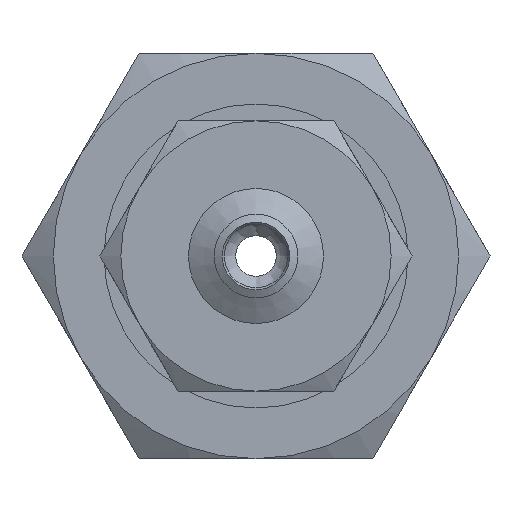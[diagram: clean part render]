
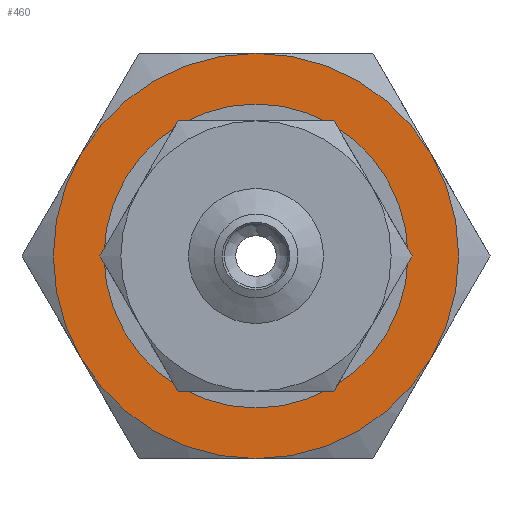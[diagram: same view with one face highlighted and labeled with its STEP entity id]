
A CAD part, front view. The second image highlights one B-rep face of the part: STEP entity #460.
In plain terms, the highlighted planar face has unit normal (0, -1, 0) as drawn and (-1, 0, 0) by its records, which use the part's own axes.
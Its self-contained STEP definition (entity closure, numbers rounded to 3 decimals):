
#460=ADVANCED_FACE('',(#640,#641),#642,.F.);
#640=FACE_BOUND('',#881,.T.);
#641=FACE_OUTER_BOUND('',#882,.T.);
#642=PLANE('',#883);
#881=EDGE_LOOP('',(#1448));
#882=EDGE_LOOP('',(#1449,#1450,#1451,#1452,#1453,#1454));
#883=AXIS2_PLACEMENT_3D('',#1455,#1456,#1457);
#1448=ORIENTED_EDGE('',*,*,#1790,.T.);
#1449=ORIENTED_EDGE('',*,*,#1791,.F.);
#1450=ORIENTED_EDGE('',*,*,#1772,.F.);
#1451=ORIENTED_EDGE('',*,*,#1770,.F.);
#1452=ORIENTED_EDGE('',*,*,#1758,.F.);
#1453=ORIENTED_EDGE('',*,*,#1757,.F.);
#1454=ORIENTED_EDGE('',*,*,#1789,.F.);
#1455=CARTESIAN_POINT('',(0.,0.0,0.0));
#1456=DIRECTION('',(1.0,0.0,0.0));
#1457=DIRECTION('',(0.0,1.0,0.0));
#1757=EDGE_CURVE('',#1999,#2002,#2004,.T.);
#1758=EDGE_CURVE('',#2002,#2005,#2006,.T.);
#1770=EDGE_CURVE('',#2005,#2022,#2025,.T.);
#1772=EDGE_CURVE('',#2022,#2027,#2028,.T.);
#1789=EDGE_CURVE('',#2048,#1999,#2053,.T.);
#1790=EDGE_CURVE('',#2054,#2054,#2055,.T.);
#1791=EDGE_CURVE('',#2027,#2048,#2056,.T.);
#1999=VERTEX_POINT('',#2431);
#2002=VERTEX_POINT('',#2454);
#2004=CIRCLE('',#2466,6.0);
#2005=VERTEX_POINT('',#2467);
#2006=CIRCLE('',#2468,6.0);
#2022=VERTEX_POINT('',#2537);
#2025=CIRCLE('',#2560,6.0);
#2027=VERTEX_POINT('',#2572);
#2028=CIRCLE('',#2573,6.0);
#2048=VERTEX_POINT('',#2654);
#2053=CIRCLE('',#2679,6.0);
#2054=VERTEX_POINT('',#2680);
#2055=CIRCLE('',#2681,4.0);
#2056=CIRCLE('',#2682,6.0);
#2431=CARTESIAN_POINT('',(0.,0.0,6.0));
#2454=CARTESIAN_POINT('',(0.,-5.196,3.0));
#2466=AXIS2_PLACEMENT_3D('',#2907,#2908,#2909);
#2467=CARTESIAN_POINT('',(0.,-5.196,-3.0));
#2468=AXIS2_PLACEMENT_3D('',#2910,#2911,#2912);
#2537=CARTESIAN_POINT('',(0.,0.0,-6.0));
#2560=AXIS2_PLACEMENT_3D('',#2919,#2920,#2921);
#2572=CARTESIAN_POINT('',(0.,5.196,-3.0));
#2573=AXIS2_PLACEMENT_3D('',#2922,#2923,#2924);
#2654=CARTESIAN_POINT('',(0.,5.196,3.0));
#2679=AXIS2_PLACEMENT_3D('',#2947,#2948,#2949);
#2680=CARTESIAN_POINT('',(0.,0.0,-4.0));
#2681=AXIS2_PLACEMENT_3D('',#2950,#2951,#2952);
#2682=AXIS2_PLACEMENT_3D('',#2953,#2954,#2955);
#2907=CARTESIAN_POINT('',(0.,0.0,0.0));
#2908=DIRECTION('',(1.0,0.0,0.0));
#2909=DIRECTION('',(0.0,0.0,-1.0));
#2910=CARTESIAN_POINT('',(0.,0.0,0.0));
#2911=DIRECTION('',(1.0,0.0,0.0));
#2912=DIRECTION('',(0.0,0.0,-1.0));
#2919=CARTESIAN_POINT('',(0.,0.0,0.0));
#2920=DIRECTION('',(1.0,0.0,0.0));
#2921=DIRECTION('',(0.0,0.0,-1.0));
#2922=CARTESIAN_POINT('',(0.,0.0,0.0));
#2923=DIRECTION('',(1.0,0.0,0.0));
#2924=DIRECTION('',(0.0,0.0,-1.0));
#2947=CARTESIAN_POINT('',(0.,0.0,0.0));
#2948=DIRECTION('',(1.0,0.0,0.0));
#2949=DIRECTION('',(0.0,0.0,-1.0));
#2950=CARTESIAN_POINT('',(0.,0.0,0.0));
#2951=DIRECTION('',(1.0,0.0,0.0));
#2952=DIRECTION('',(0.0,0.0,-1.0));
#2953=CARTESIAN_POINT('',(0.,0.0,0.0));
#2954=DIRECTION('',(1.0,0.0,0.0));
#2955=DIRECTION('',(0.0,0.0,-1.0));
